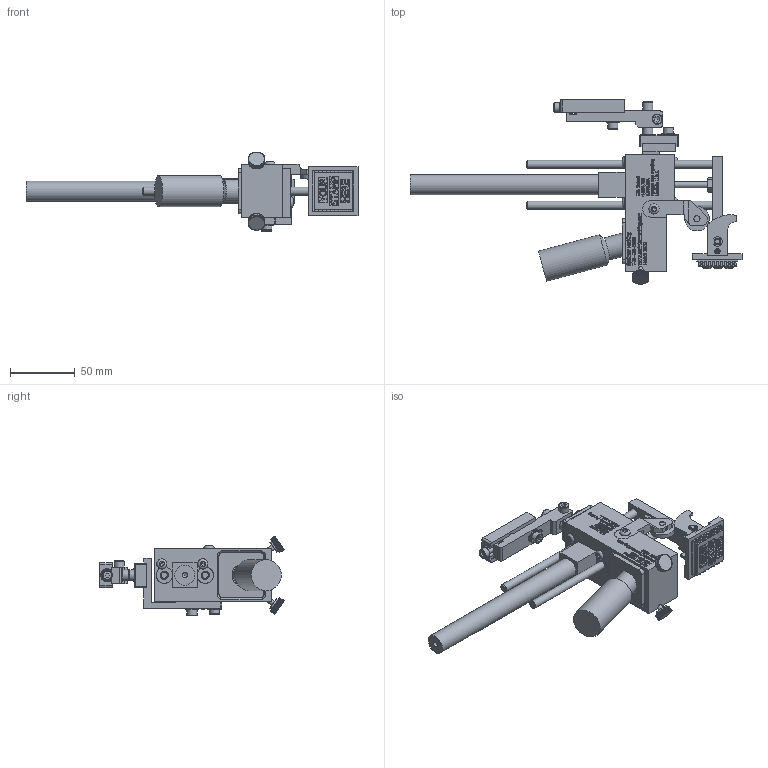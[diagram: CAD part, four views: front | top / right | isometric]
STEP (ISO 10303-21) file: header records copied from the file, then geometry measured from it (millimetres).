
FILE_DESCRIPTION((''),'2;1');
FILE_NAME('C:\Documents and Settings\Ron\My Documents\Inventor\Sprinter Drawing\Machines in Inventor\Model 1010\Type\Ext Str\E2\Brkt\90\Model 1010 ES2 90 deg w Brkt.stp','2009-01-21T08:55:36',('Ron'),(''),'Autodesk Inventor 2008','Autodesk Inventor 2008','');
FILE_SCHEMA(('AUTOMOTIVE_DESIGN { 1 0 10303 214 1 1 1 1 }'));
Length unit declared in the file: inch
Products named in the file (1): Model 1010 ES2  90 deg w Brkt
Bounding box: 257.21 x 142.74 x 61.82 mm (x, y, z)
Volume: 249459.5 mm3; surface area: 85960.7 mm2
Topology: 385 solids, 385 shells, 6612 faces, 16490 edges, 10228 vertices
Faces by surface type: plane 4582, bspline 1380, cylinder 550, cone 75, torus 21, sphere 4
Full cylindrical faces by diameter (mm): 2.845 x1, 3.175 x1, 3.505 x1, 3.708 x2, 4.064 x2, 4.166 x5, 4.75 x5, 4.775 x2, 4.826 x10, 5.08 x1, 5.156 x3, 6.223 x2, 6.325 x2, 6.35 x2, 6.604 x1, 6.68 x1, 6.858 x2, 7.62 x2, 7.925 x11, 7.938 x1, 9.017 x1, 9.525 x2, 10.312 x4, 10.922 x1, 15.494 x1, 17.526 x1, 19.05 x1, 24.13 x1
Entity records: 206602 total; most frequent: CARTESIAN_POINT 56630, ORIENTED_EDGE 32334, DIRECTION 25259, EDGE_CURVE 16167, VECTOR 12037, LINE 12037, VERTEX_POINT 10120, EDGE_LOOP 7231
